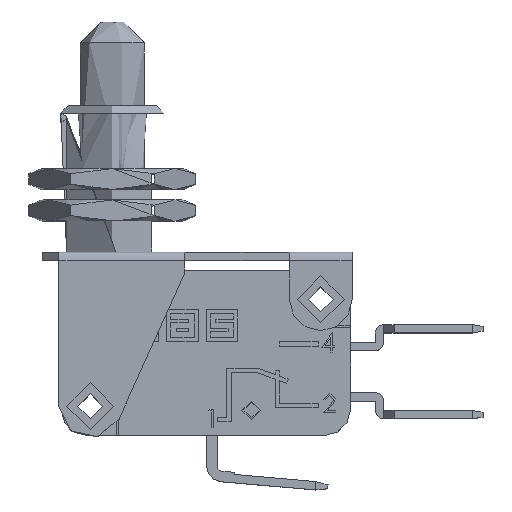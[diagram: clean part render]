
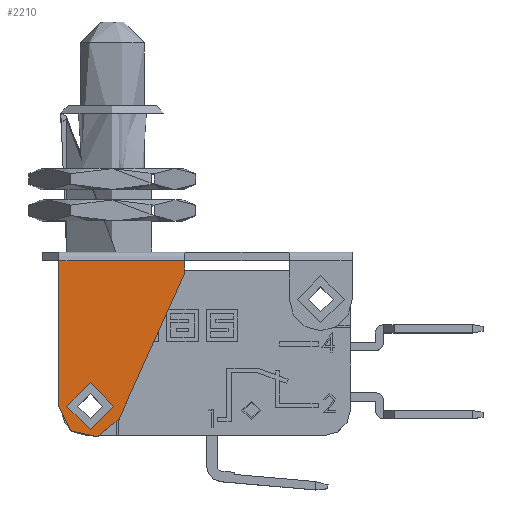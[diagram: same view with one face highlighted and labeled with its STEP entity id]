
A CAD part, top view. The second image highlights one B-rep face of the part: STEP entity #2210.
In plain terms, the highlighted planar face has unit normal (0, 0, 1).
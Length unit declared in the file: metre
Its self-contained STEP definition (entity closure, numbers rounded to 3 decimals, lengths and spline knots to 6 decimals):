
#2131=CARTESIAN_POINT('',(-0.021702,-0.018054,0.034213));
#2132=VERTEX_POINT('',#2131);
#2135=CARTESIAN_POINT('',(-0.024438,-0.016823,0.034213));
#2136=DIRECTION('',(0.,0.,1.));
#2137=DIRECTION('',(1.,0.,0.));
#2138=AXIS2_PLACEMENT_3D('',#2135,#2136,#2137);
#2139=CIRCLE('',#2138,0.003);
#2140=CARTESIAN_POINT('',(-0.027438,-0.016823,0.034213));
#2141=VERTEX_POINT('',#2140);
#2142=EDGE_CURVE('',#2141,#2132,#2139,.T.);
#2161=CARTESIAN_POINT('',(-0.015438,-0.019823,0.034213));
#2162=DIRECTION('',(0.,0.,1.));
#2163=DIRECTION('',(1.,0.,0.));
#2164=AXIS2_PLACEMENT_3D('',#2161,#2162,#2163);
#2165=PLANE('',#2164);
#2166=CARTESIAN_POINT('',(-0.024438,-0.016823,0.034213));
#2167=DIRECTION('',(0.,0.,1.));
#2168=DIRECTION('',(1.,0.,0.));
#2169=AXIS2_PLACEMENT_3D('',#2166,#2167,#2168);
#2170=CIRCLE('',#2169,0.0017);
#2171=CARTESIAN_POINT('',(-0.026138,-0.016823,0.034213));
#2172=VERTEX_POINT('',#2171);
#2173=EDGE_CURVE('',#2172,#2172,#2170,.T.);
#2174=ORIENTED_EDGE('',*,*,#2173,.F.);
#2175=EDGE_LOOP('',(#2174));
#2176=FACE_BOUND('',#2175,.T.);
#2177=ORIENTED_EDGE('',*,*,#2142,.T.);
#2178=CARTESIAN_POINT('',(-0.015438,-0.004123,0.034213));
#2179=DIRECTION('',(0.41,0.912,0.));
#2180=VECTOR('',#2179,1.);
#2181=LINE('',#2178,#2180);
#2182=CARTESIAN_POINT('',(-0.015438,-0.004123,0.034213));
#2183=VERTEX_POINT('',#2182);
#2184=EDGE_CURVE('',#2132,#2183,#2181,.T.);
#2185=ORIENTED_EDGE('',*,*,#2184,.T.);
#2186=CARTESIAN_POINT('',(-0.015438,-0.019823,0.034213));
#2187=DIRECTION('',(0.,1.,0.));
#2188=VECTOR('',#2187,1.);
#2189=LINE('',#2186,#2188);
#2190=CARTESIAN_POINT('',(-0.015438,-0.002923,0.034213));
#2191=VERTEX_POINT('',#2190);
#2192=EDGE_CURVE('',#2183,#2191,#2189,.T.);
#2193=ORIENTED_EDGE('',*,*,#2192,.T.);
#2194=CARTESIAN_POINT('',(-0.015438,-0.002923,0.034213));
#2195=DIRECTION('',(-1.,0.,0.));
#2196=VECTOR('',#2195,1.);
#2197=LINE('',#2194,#2196);
#2198=CARTESIAN_POINT('',(-0.027438,-0.002923,0.034213));
#2199=VERTEX_POINT('',#2198);
#2200=EDGE_CURVE('',#2191,#2199,#2197,.T.);
#2201=ORIENTED_EDGE('',*,*,#2200,.T.);
#2202=CARTESIAN_POINT('',(-0.027438,-0.019823,0.034213));
#2203=DIRECTION('',(0.,1.,0.));
#2204=VECTOR('',#2203,1.);
#2205=LINE('',#2202,#2204);
#2206=EDGE_CURVE('',#2141,#2199,#2205,.T.);
#2207=ORIENTED_EDGE('',*,*,#2206,.F.);
#2208=EDGE_LOOP('',(#2177,#2185,#2193,#2201,#2207));
#2209=FACE_BOUND('',#2208,.T.);
#2210=ADVANCED_FACE('',(#2176,#2209),#2165,.T.);
